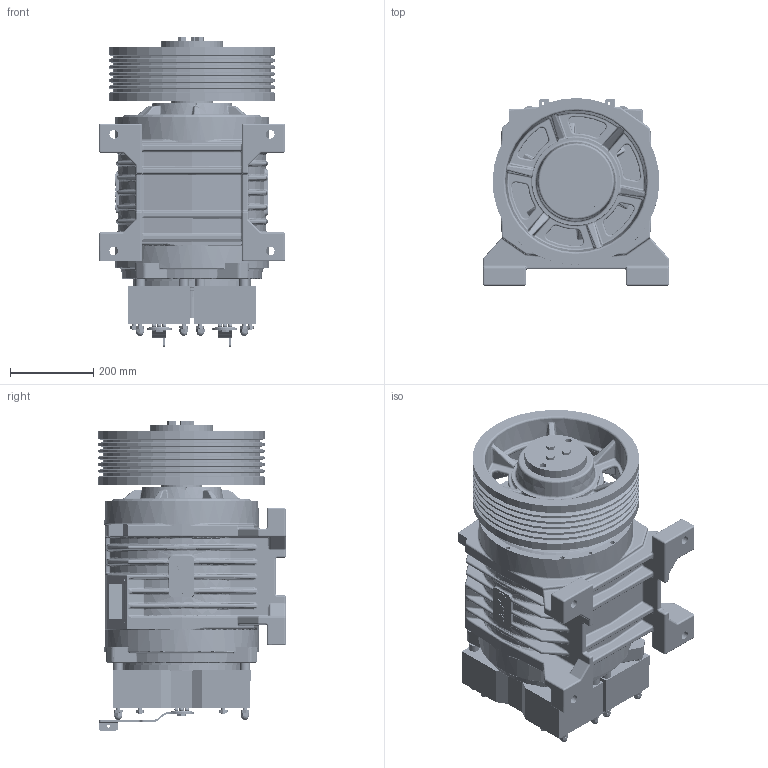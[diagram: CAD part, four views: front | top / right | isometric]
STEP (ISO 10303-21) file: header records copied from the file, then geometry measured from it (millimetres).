
FILE_DESCRIPTION (( 'STEP AP214' ), '1' );
FILE_NAME ('QS540125100.STEP', '2026-01-08T09:46:35', ( '' ), ( '' ), 'SwSTEP 2.0', 'SolidWorks 2023', '' );
FILE_SCHEMA (( 'AUTOMOTIVE_DESIGN' ));
Length unit declared in the file: millimetre
Products named in the file (1): QS540125100
Bounding box: 445.91 x 449.95 x 741.79 mm (x, y, z)
Surface area: 3745462.2 mm2 (no closed solid volume)
Topology: 0 solids, 106 shells, 5275 faces, 12628 edges, 7249 vertices
Faces by surface type: cylinder 1460, plane 1175, bspline 1034, cone 700, sphere 466, torus 440
Entity records: 187161 total; most frequent: CARTESIAN_POINT 74492, ORIENTED_EDGE 24178, DIRECTION 22624, EDGE_CURVE 12113, AXIS2_PLACEMENT_3D 9514, VERTEX_POINT 7218, EDGE_LOOP 5625, ADVANCED_FACE 5275
